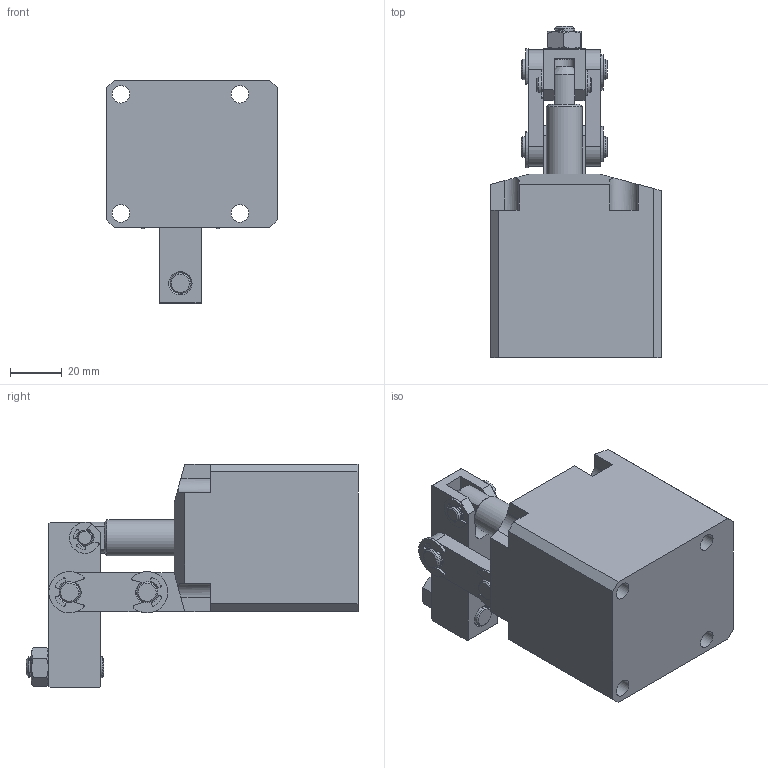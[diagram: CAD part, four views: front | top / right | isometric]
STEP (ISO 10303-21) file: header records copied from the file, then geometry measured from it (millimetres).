
FILE_DESCRIPTION(/* description */ ('STEP AP214'),/* implementation_level */ '2;1');
FILE_NAME(/* name */ 'D:\Vault_2016\Projekty\Clamptek\Hydraulic\CBLU\CBLU-35\STEP\CBLU-35R.stp',/* time_stamp */ '2021-05-06T12:31:23+02:00',/* author */ ('user'),/* organization */ (''),/* preprocessor_version */ 'ST-DEVELOPER v18.1',/* originating_system */ 'Autodesk Inventor 2021',/* authorisation */ '');
FILE_SCHEMA (('AUTOMOTIVE_DESIGN { 1 0 10303 214 3 1 1 }'));
Length unit declared in the file: millimetre
Products named in the file (11): CBLU-35R; ±¾ÌåCR_2_1; »îÈû¸Ë_7_1; Á¬¸Ë; 35Ñ¹±Û; ¶ÌÏúÖá; ³¤ÏúÖá; e rings gb_GB_CONNECTING_PIECE_RINGS_HR 6; e rings gb_GB_CONNECTING_PIECE_RINGS_HR 8; hex nuts, style 1-grades ab gb_GB_FASTENER_NUT_SNAB1 M8-N; ÂÝË¿2
Assembly tree (16 placements, depth 2):
  CBLU-35R
    ±¾ÌåCR_2_1
    »îÈû¸Ë_7_1
    Á¬¸Ë  x2
    35Ñ¹±Û
    ¶ÌÏúÖá
    ³¤ÏúÖá  x2
    e rings gb_GB_CONNECTING_PIECE_RINGS_HR 6  x2
    e rings gb_GB_CONNECTING_PIECE_RINGS_HR 8  x4
    hex nuts, style 1-grades ab gb_GB_FASTENER_NUT_SNAB1 M8-N
    ÂÝË¿2
Bounding box: 66 x 128.3 x 86.5 mm (x, y, z)
Volume: 255997.1 mm3; surface area: 59537.8 mm2
Topology: 16 solids, 16 shells, 331 faces, 828 edges, 546 vertices
Faces by surface type: plane 148, cylinder 141, cone 38, bspline 4
Full cylindrical faces by diameter (mm): 2.5 x2, 3 x1, 5 x2, 6 x6, 6.647 x1, 6.8 x4, 7 x4, 8 x33, 14 x2, 35 x2
Entity records: 10398 total; most frequent: CARTESIAN_POINT 4382, DIRECTION 1190, ORIENTED_EDGE 1128, EDGE_CURVE 564, AXIS2_PLACEMENT_3D 443, VERTEX_POINT 371, LINE 304, VECTOR 304
